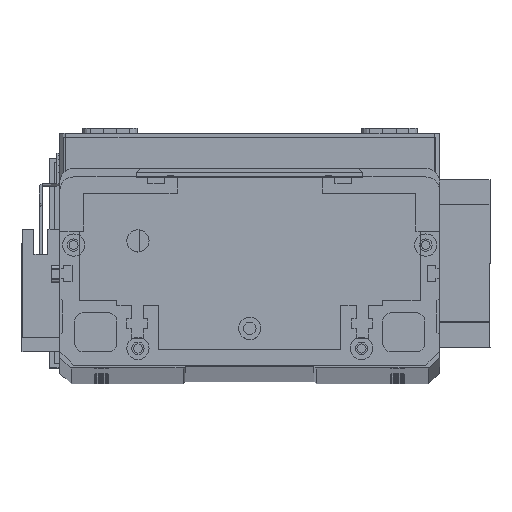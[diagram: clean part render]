
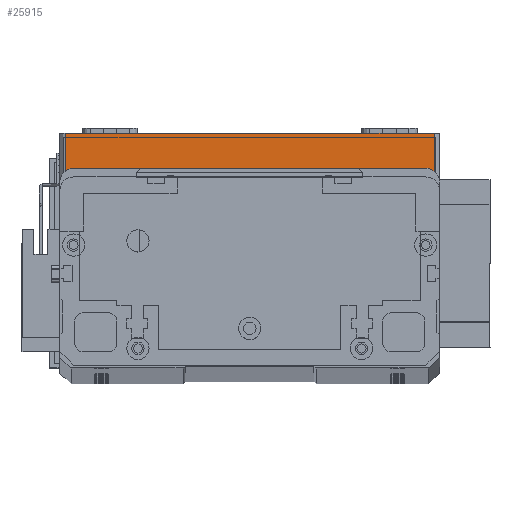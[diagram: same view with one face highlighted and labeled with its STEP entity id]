
A CAD part, top view. The second image highlights one B-rep face of the part: STEP entity #25915.
In plain terms, the highlighted planar face has unit normal (0, 0, 1) as drawn and (0, -1, 0) by its records, which use the part's own axes.
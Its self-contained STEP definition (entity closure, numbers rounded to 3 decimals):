
#2136 = LINE ( 'NONE', #2997, #20743 ) ;
#2526 = DIRECTION ( 'NONE',  ( 0., 1., 0. ) ) ;
#2997 = CARTESIAN_POINT ( 'NONE',  ( 134., 0., 19.5 ) ) ;
#3265 = EDGE_CURVE ( 'NONE', #27360, #25401, #2136, .T. ) ;
#3890 = EDGE_CURVE ( 'NONE', #10420, #25401, #13493, .T. ) ;
#4714 = DIRECTION ( 'NONE',  ( 1., 0., 0. ) ) ;
#6997 = VERTEX_POINT ( 'NONE', #18487 ) ;
#7743 = CARTESIAN_POINT ( 'NONE',  ( 2., 0., 19.5 ) ) ;
#8370 = LINE ( 'NONE', #10802, #14060 ) ;
#10420 = VERTEX_POINT ( 'NONE', #7743 ) ;
#10802 = CARTESIAN_POINT ( 'NONE',  ( 2., 0., 19.5 ) ) ;
#10848 = CARTESIAN_POINT ( 'NONE',  ( 0., 0., 19.5 ) ) ;
#11214 = FACE_OUTER_BOUND ( 'NONE', #21121, .T. ) ;
#13493 = LINE ( 'NONE', #10848, #25626 ) ;
#14060 = VECTOR ( 'NONE', #27793, 1000. ) ;
#15509 = CARTESIAN_POINT ( 'NONE',  ( 134., 0., 0. ) ) ;
#16824 = CARTESIAN_POINT ( 'NONE',  ( 0., 0., 0. ) ) ;
#16986 = ORIENTED_EDGE ( 'NONE', *, *, #29499, .T. ) ;
#17082 = CARTESIAN_POINT ( 'NONE',  ( 0., 0., 19.5 ) ) ;
#17432 = CARTESIAN_POINT ( 'NONE',  ( 134., 0., 19.5 ) ) ;
#18487 = CARTESIAN_POINT ( 'NONE',  ( 2., 0., 0. ) ) ;
#18516 = EDGE_CURVE ( 'NONE', #10420, #6997, #8370, .T. ) ;
#19514 = DIRECTION ( 'NONE',  ( 0., 0., 1. ) ) ;
#20743 = VECTOR ( 'NONE', #29618, 1000. ) ;
#21121 = EDGE_LOOP ( 'NONE', ( #27144, #24908, #16986, #24170 ) ) ;
#21257 = LINE ( 'NONE', #16824, #26929 ) ;
#24170 = ORIENTED_EDGE ( 'NONE', *, *, #3265, .T. ) ;
#24278 = PLANE ( 'NONE',  #28237 ) ;
#24908 = ORIENTED_EDGE ( 'NONE', *, *, #18516, .T. ) ;
#25401 = VERTEX_POINT ( 'NONE', #17432 ) ;
#25626 = VECTOR ( 'NONE', #27832, 1000. ) ;
#25915 = ADVANCED_FACE ( 'NONE', ( #11214 ), #24278, .F. ) ;
#26929 = VECTOR ( 'NONE', #4714, 1000. ) ;
#27144 = ORIENTED_EDGE ( 'NONE', *, *, #3890, .F. ) ;
#27360 = VERTEX_POINT ( 'NONE', #15509 ) ;
#27793 = DIRECTION ( 'NONE',  ( 0., 0., -1. ) ) ;
#27832 = DIRECTION ( 'NONE',  ( 1., 0., 0. ) ) ;
#28237 = AXIS2_PLACEMENT_3D ( 'NONE', #17082, #2526, #19514 ) ;
#29499 = EDGE_CURVE ( 'NONE', #6997, #27360, #21257, .T. ) ;
#29618 = DIRECTION ( 'NONE',  ( 0., 0., 1. ) ) ;
